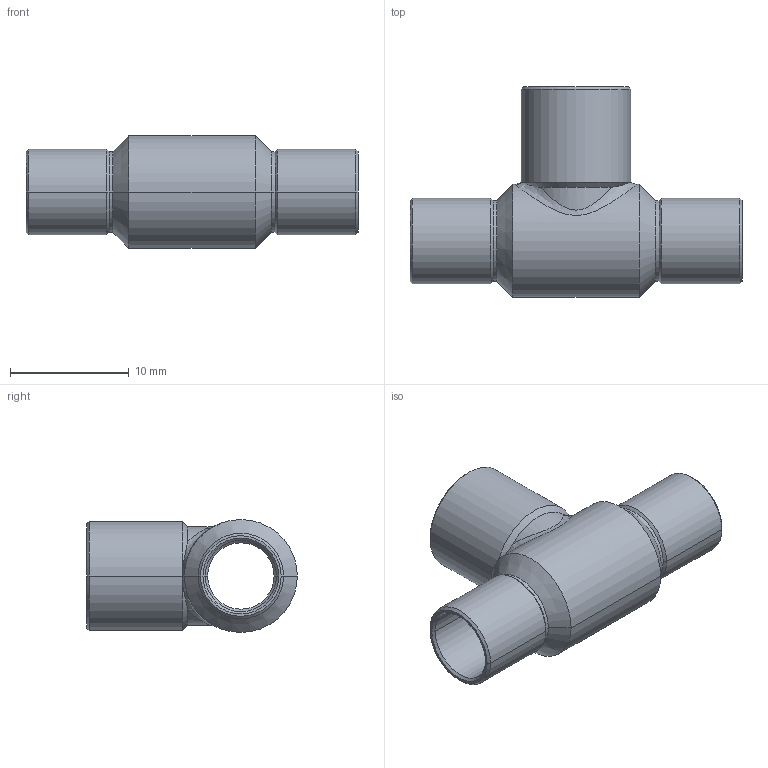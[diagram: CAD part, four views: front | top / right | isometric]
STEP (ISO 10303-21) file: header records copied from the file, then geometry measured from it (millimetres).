
FILE_DESCRIPTION((''),'2;1');
FILE_NAME('P:\Bouwmaten\z-maattekeningen 3D\5000\5130\5130686.stp','2005-10-26T11:54:00',('Kris'),(''),'Autodesk Inventor 8','Autodesk Inventor 8','');
FILE_SCHEMA(('AUTOMOTIVE_DESIGN { 1 0 10303 214 1 1 1 1 }'));
Length unit declared in the file: millimetre
Products named in the file (1): 5130686
Bounding box: 28 x 17.76 x 9.52 mm (x, y, z)
Volume: 530.1 mm3; surface area: 1809.9 mm2
Topology: 1 solids, 1 shells, 69 faces, 152 edges, 84 vertices
Faces by surface type: cone 28, cylinder 24, bspline 14, plane 3
Entity records: 2635 total; most frequent: CARTESIAN_POINT 1146, DIRECTION 308, ORIENTED_EDGE 304, EDGE_CURVE 152, AXIS2_PLACEMENT_3D 125, VERTEX_POINT 84, EDGE_LOOP 72, CIRCLE 69
